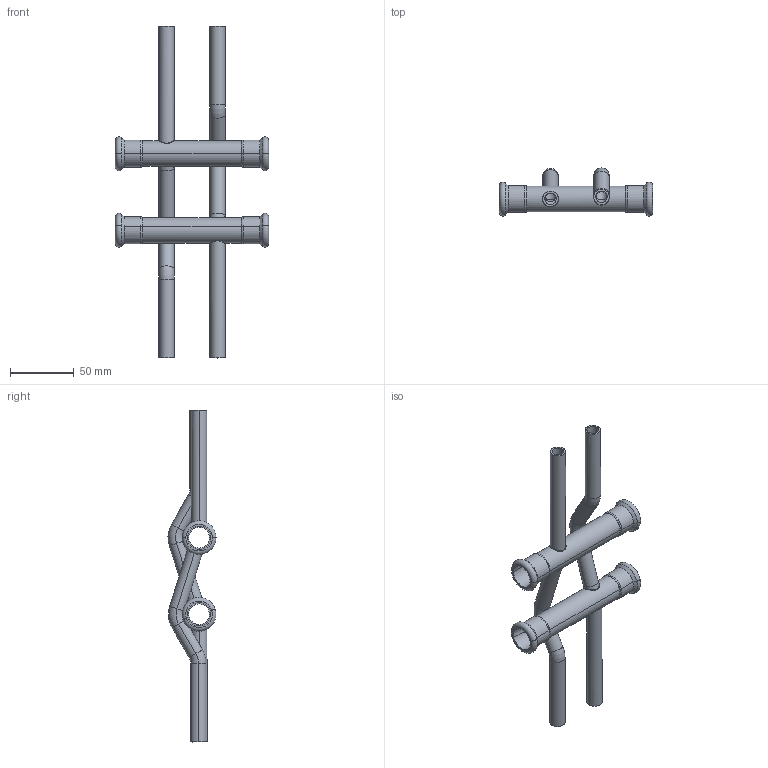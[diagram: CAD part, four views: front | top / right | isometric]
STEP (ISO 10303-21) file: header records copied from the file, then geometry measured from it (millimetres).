
FILE_DESCRIPTION(('CoCreate Modeling STEP Export'),'2;1');
FILE_NAME('C1436 18x12.stp','2015-08-12T 9:06:50',(''),(''),'CoCreate Modeling STEP processor for AP214 (Solid Model)','CoCreate Modeling 17.00A 17-Jun-2010 (C) Parametric Technology GmbH','');
FILE_SCHEMA(('AUTOMOTIVE_DESIGN { 1 0 10303 214 1 1 1 1 }'));
Length unit declared in the file: millimetre
Products named in the file (5): 620867.5.1.2; 620867.5.1.1.1; 620857.6.1.2; 620857.6.1.1.1; C1436-18x12
Assembly tree (4 placements, depth 2):
  C1436-18x12
    620857.6.1.1.1
    620857.6.1.2
    620867.5.1.1.1
    620867.5.1.2
Bounding box: 120 x 37.6 x 260.06 mm (x, y, z)
Volume: 49477.6 mm3; surface area: 62841.9 mm2
Topology: 4 solids, 4 shells, 148 faces, 322 edges, 194 vertices
Faces by surface type: cylinder 72, torus 32, plane 20, cone 16, bspline 8
Entity records: 11335 total; most frequent: CARTESIAN_POINT 8445, ORIENTED_EDGE 644, DIRECTION 494, EDGE_CURVE 322, AXIS2_PLACEMENT_3D 203, VERTEX_POINT 194, EDGE_LOOP 176, FACE_OUTER_BOUND 148
